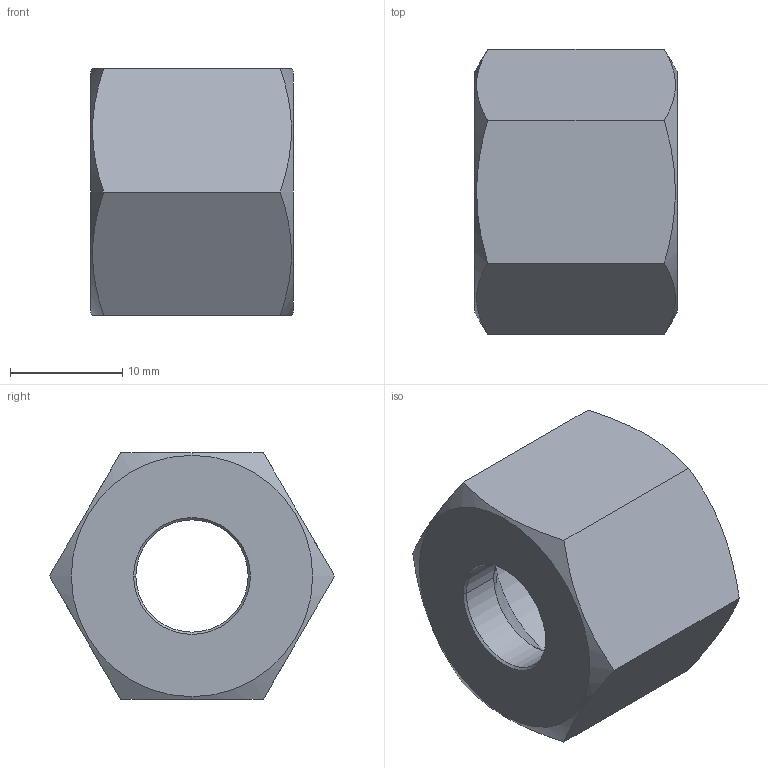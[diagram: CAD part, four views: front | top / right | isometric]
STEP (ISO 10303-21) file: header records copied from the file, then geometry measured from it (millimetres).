
FILE_DESCRIPTION((''),'2;1');
FILE_NAME('100216.stp','2006-03-06T15:10:44',('Dario Falcomer'),('CAST S.p.A.'),'AutoCAD STEP 2000i','AutoCAD 2000i',', , ');
FILE_SCHEMA(('CONFIG_CONTROL_DESIGN'));
Length unit declared in the file: millimetre
Products named in the file (2): 100216.0; CHIAVE_DADI#0
Assembly tree (1 placements, depth 2):
  100216.0
    CHIAVE_DADI#0
Bounding box: 18 x 25.4 x 22 mm (x, y, z)
Volume: 4327.8 mm3; surface area: 2706.8 mm2
Topology: 1 solids, 1 shells, 22 faces, 52 edges, 32 vertices
Faces by surface type: cone 10, plane 8, cylinder 4
Entity records: 725 total; most frequent: CARTESIAN_POINT 140, ORIENTED_EDGE 104, DIRECTION 100, EDGE_CURVE 52, AXIS2_PLACEMENT_3D 40, VERTEX_POINT 32, EDGE_LOOP 24, FACE_OUTER_BOUND 22
